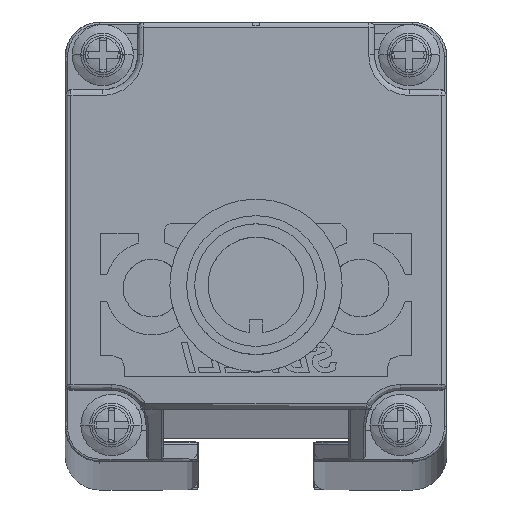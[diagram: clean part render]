
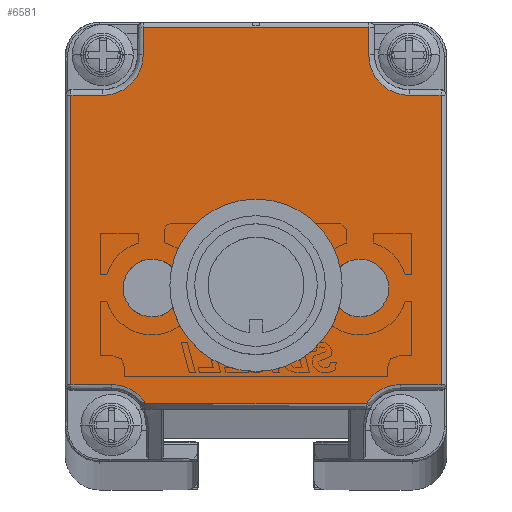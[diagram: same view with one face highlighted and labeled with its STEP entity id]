
A CAD part, top view. The second image highlights one B-rep face of the part: STEP entity #6581.
In plain terms, the highlighted planar face has unit normal (0, 0, 1).
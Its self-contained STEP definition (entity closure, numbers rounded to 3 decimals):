
#2629=CARTESIAN_POINT('',(0.65,-8.054,
1285.276));
#2630=DIRECTION('',(0.,0.,1.));
#2631=DIRECTION('',(1.,0.,0.));
#2632=AXIS2_PLACEMENT_3D('',#2629,#2630,#2631);
#2634=CARTESIAN_POINT('',(0.65,-8.054,
1285.276));
#2635=DIRECTION('',(0.,0.,1.));
#2636=DIRECTION('',(-1.,0.,0.));
#2637=AXIS2_PLACEMENT_3D('',#2634,#2635,#2636);
#2639=CARTESIAN_POINT('',(9.65,-8.055,1285.276));
#2640=DIRECTION('',(0.,0.,1.));
#2641=DIRECTION('',(1.,-0.007,0.));
#2642=AXIS2_PLACEMENT_3D('',#2639,#2640,#2641);
#2644=CARTESIAN_POINT('',(9.65,-8.055,1285.276));
#2645=DIRECTION('',(0.,0.,1.));
#2646=DIRECTION('',(-1.,0.007,0.));
#2647=AXIS2_PLACEMENT_3D('',#2644,#2645,#2646);
#2649=CARTESIAN_POINT('',(-8.35,-8.054,
1285.276));
#2650=DIRECTION('',(0.,0.,1.));
#2651=DIRECTION('',(1.,0.007,0.));
#2652=AXIS2_PLACEMENT_3D('',#2649,#2650,#2651);
#2654=CARTESIAN_POINT('',(-8.35,-8.054,
1285.276));
#2655=DIRECTION('',(0.,0.,1.));
#2656=DIRECTION('',(-1.,-0.007,0.));
#2657=AXIS2_PLACEMENT_3D('',#2654,#2655,#2656);
#2659=CARTESIAN_POINT('',(-11.85,-19.904,
1285.276));
#2660=DIRECTION('',(0.,0.,1.));
#2661=DIRECTION('',(0.849,0.528,0.));
#2662=AXIS2_PLACEMENT_3D('',#2659,#2660,#2661);
#2664=CARTESIAN_POINT('',(-12.6,12.094,1285.276));
#2665=DIRECTION('',(0.,0.,1.));
#2666=DIRECTION('',(0.,-1.,0.));
#2667=AXIS2_PLACEMENT_3D('',#2664,#2665,#2666);
#2669=CARTESIAN_POINT('',(13.9,12.094,1285.276));
#2670=DIRECTION('',(0.,0.,1.));
#2671=DIRECTION('',(-1.,0.,0.));
#2672=AXIS2_PLACEMENT_3D('',#2669,#2670,#2671);
#2674=CARTESIAN_POINT('',(13.15,-19.904,1285.276));
#2675=DIRECTION('',(0.,0.,1.));
#2676=DIRECTION('',(0.,1.,0.));
#2677=AXIS2_PLACEMENT_3D('',#2674,#2675,#2676);
#4225=DIRECTION('',(1.,0.,0.));
#4226=VECTOR('',#4225,19.056);
#4227=CARTESIAN_POINT('',(-8.878,-18.056,
1285.276));
#4228=LINE('',#4227,#4226);
#4869=DIRECTION('',(0.,1.,0.));
#4870=VECTOR('',#4869,2.35);
#4871=CARTESIAN_POINT('',(10.4,12.094,1285.276));
#4872=LINE('',#4871,#4870);
#4892=DIRECTION('',(-1.,0.,0.));
#4893=VECTOR('',#4892,19.5);
#4894=CARTESIAN_POINT('',(10.4,14.444,1285.276));
#4895=LINE('',#4894,#4893);
#4916=DIRECTION('',(0.,-1.,0.));
#4917=VECTOR('',#4916,2.35);
#4918=CARTESIAN_POINT('',(-9.1,14.444,1285.276));
#4919=LINE('',#4918,#4917);
#4943=DIRECTION('',(-1.,0.,0.));
#4944=VECTOR('',#4943,2.75);
#4945=CARTESIAN_POINT('',(-12.6,8.594,1285.276));
#4946=LINE('',#4945,#4944);
#4974=DIRECTION('',(0.,-1.,0.));
#4975=VECTOR('',#4974,24.998);
#4976=CARTESIAN_POINT('',(-15.35,8.594,1285.276));
#4977=LINE('',#4976,#4975);
#4998=DIRECTION('',(1.,0.,0.));
#4999=VECTOR('',#4998,3.5);
#5000=CARTESIAN_POINT('',(-15.35,-16.404,
1285.276));
#5001=LINE('',#5000,#4999);
#5062=DIRECTION('',(-1.,0.,0.));
#5063=VECTOR('',#5062,2.75);
#5064=CARTESIAN_POINT('',(16.65,8.594,1285.276));
#5065=LINE('',#5064,#5063);
#5302=DIRECTION('',(1.,0.,0.));
#5303=VECTOR('',#5302,3.5);
#5304=CARTESIAN_POINT('',(13.15,-16.404,1285.276));
#5305=LINE('',#5304,#5303);
#5333=DIRECTION('',(0.,1.,0.));
#5334=VECTOR('',#5333,24.998);
#5335=CARTESIAN_POINT('',(16.65,-16.404,1285.276));
#5336=LINE('',#5335,#5334);
#5697=CARTESIAN_POINT('',(12.15,-8.072,1285.276));
#5698=VERTEX_POINT('',#5697);
#5699=CARTESIAN_POINT('',(7.15,-8.039,1285.276));
#5700=VERTEX_POINT('',#5699);
#5701=CARTESIAN_POINT('',(-8.878,-18.056,
1285.276));
#5702=CARTESIAN_POINT('',(-11.85,-16.404,
1285.276));
#5703=VERTEX_POINT('',#5701);
#5704=VERTEX_POINT('',#5702);
#5705=CARTESIAN_POINT('',(-15.35,-16.404,
1285.276));
#5706=VERTEX_POINT('',#5705);
#5707=CARTESIAN_POINT('',(-15.35,8.594,1285.276));
#5708=VERTEX_POINT('',#5707);
#5709=CARTESIAN_POINT('',(-12.6,8.594,1285.276));
#5710=VERTEX_POINT('',#5709);
#5711=CARTESIAN_POINT('',(-9.1,12.094,1285.276));
#5712=VERTEX_POINT('',#5711);
#5713=CARTESIAN_POINT('',(-9.1,14.444,1285.276));
#5714=VERTEX_POINT('',#5713);
#5715=CARTESIAN_POINT('',(10.4,14.444,1285.276));
#5716=VERTEX_POINT('',#5715);
#5717=CARTESIAN_POINT('',(10.4,12.094,1285.276));
#5718=VERTEX_POINT('',#5717);
#5719=CARTESIAN_POINT('',(13.9,8.594,1285.276));
#5720=VERTEX_POINT('',#5719);
#5721=CARTESIAN_POINT('',(16.65,8.594,1285.276));
#5722=VERTEX_POINT('',#5721);
#5723=CARTESIAN_POINT('',(16.65,-16.404,1285.276));
#5724=VERTEX_POINT('',#5723);
#5725=CARTESIAN_POINT('',(13.15,-16.404,1285.276));
#5726=VERTEX_POINT('',#5725);
#5727=CARTESIAN_POINT('',(10.178,-18.056,1285.276));
#5728=VERTEX_POINT('',#5727);
#5729=CARTESIAN_POINT('',(-5.85,-8.037,
1285.276));
#5730=CARTESIAN_POINT('',(-10.85,-8.07,
1285.276));
#5731=VERTEX_POINT('',#5729);
#5732=VERTEX_POINT('',#5730);
#5733=CARTESIAN_POINT('',(3.65,-8.054,1285.276));
#5734=CARTESIAN_POINT('',(-2.35,-8.054,
1285.276));
#5735=VERTEX_POINT('',#5733);
#5736=VERTEX_POINT('',#5734);
#6530=CARTESIAN_POINT('',(0.65,0.944,
1285.276));
#6531=DIRECTION('',(0.,0.,1.));
#6532=DIRECTION('',(1.,0.,0.));
#6533=AXIS2_PLACEMENT_3D('',#6530,#6531,#6532);
#6534=PLANE('',#6533);
#6536=ORIENTED_EDGE('',*,*,#6535,.T.);
#6538=ORIENTED_EDGE('',*,*,#6537,.F.);
#6540=ORIENTED_EDGE('',*,*,#6539,.F.);
#6542=ORIENTED_EDGE('',*,*,#6541,.F.);
#6544=ORIENTED_EDGE('',*,*,#6543,.T.);
#6546=ORIENTED_EDGE('',*,*,#6545,.F.);
#6548=ORIENTED_EDGE('',*,*,#6547,.F.);
#6550=ORIENTED_EDGE('',*,*,#6549,.F.);
#6552=ORIENTED_EDGE('',*,*,#6551,.T.);
#6554=ORIENTED_EDGE('',*,*,#6553,.F.);
#6556=ORIENTED_EDGE('',*,*,#6555,.F.);
#6558=ORIENTED_EDGE('',*,*,#6557,.F.);
#6560=ORIENTED_EDGE('',*,*,#6559,.T.);
#6562=ORIENTED_EDGE('',*,*,#6561,.F.);
#6563=EDGE_LOOP('',(#6536,#6538,#6540,#6542,#6544,#6546,#6548,#6550,#6552,#6554,
#6556,#6558,#6560,#6562));
#6564=FACE_OUTER_BOUND('',#6563,.F.);
#6565=ORIENTED_EDGE('',*,*,#6517,.T.);
#6566=ORIENTED_EDGE('',*,*,#6478,.T.);
#6567=EDGE_LOOP('',(#6565,#6566));
#6568=FACE_BOUND('',#6567,.F.);
#6570=ORIENTED_EDGE('',*,*,#6569,.T.);
#6572=ORIENTED_EDGE('',*,*,#6571,.T.);
#6573=EDGE_LOOP('',(#6570,#6572));
#6574=FACE_BOUND('',#6573,.F.);
#6576=ORIENTED_EDGE('',*,*,#6575,.T.);
#6578=ORIENTED_EDGE('',*,*,#6577,.T.);
#6579=EDGE_LOOP('',(#6576,#6578));
#6580=FACE_BOUND('',#6579,.F.);
#2633=CIRCLE('',#2632,3.);
#2638=CIRCLE('',#2637,3.);
#2643=CIRCLE('',#2642,2.5);
#2648=CIRCLE('',#2647,2.5);
#2653=CIRCLE('',#2652,2.5);
#2658=CIRCLE('',#2657,2.5);
#2663=CIRCLE('',#2662,3.5);
#2668=CIRCLE('',#2667,3.5);
#2673=CIRCLE('',#2672,3.5);
#2678=CIRCLE('',#2677,3.5);
#6478=EDGE_CURVE('',#5700,#5698,#2648,.T.);
#6517=EDGE_CURVE('',#5698,#5700,#2643,.T.);
#6535=EDGE_CURVE('',#5703,#5704,#2663,.T.);
#6537=EDGE_CURVE('',#5706,#5704,#5001,.T.);
#6539=EDGE_CURVE('',#5708,#5706,#4977,.T.);
#6541=EDGE_CURVE('',#5710,#5708,#4946,.T.);
#6543=EDGE_CURVE('',#5710,#5712,#2668,.T.);
#6545=EDGE_CURVE('',#5714,#5712,#4919,.T.);
#6547=EDGE_CURVE('',#5716,#5714,#4895,.T.);
#6549=EDGE_CURVE('',#5718,#5716,#4872,.T.);
#6551=EDGE_CURVE('',#5718,#5720,#2673,.T.);
#6553=EDGE_CURVE('',#5722,#5720,#5065,.T.);
#6555=EDGE_CURVE('',#5724,#5722,#5336,.T.);
#6557=EDGE_CURVE('',#5726,#5724,#5305,.T.);
#6559=EDGE_CURVE('',#5726,#5728,#2678,.T.);
#6561=EDGE_CURVE('',#5703,#5728,#4228,.T.);
#6569=EDGE_CURVE('',#5731,#5732,#2653,.T.);
#6571=EDGE_CURVE('',#5732,#5731,#2658,.T.);
#6575=EDGE_CURVE('',#5735,#5736,#2633,.T.);
#6577=EDGE_CURVE('',#5736,#5735,#2638,.T.);
#6581=ADVANCED_FACE('',(#6564,#6568,#6574,#6580),#6534,.T.);
